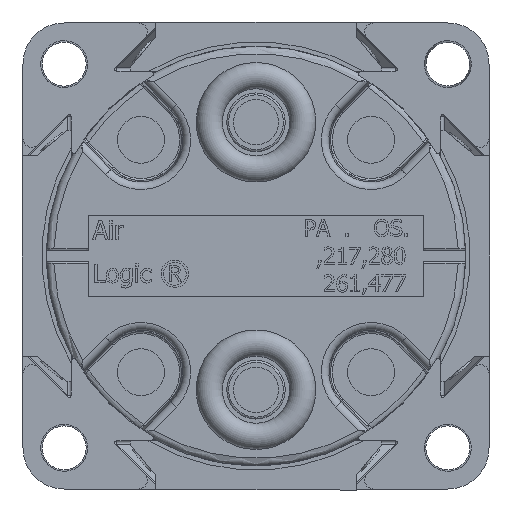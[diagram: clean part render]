
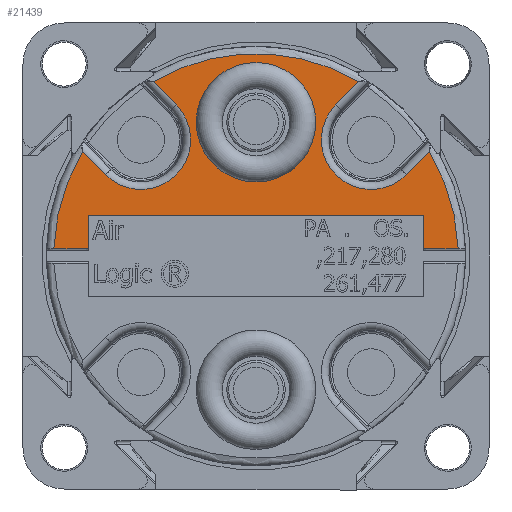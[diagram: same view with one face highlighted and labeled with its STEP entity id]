
A CAD part, front view. The second image highlights one B-rep face of the part: STEP entity #21439.
In plain terms, the highlighted planar face has unit normal (0, -1, 0).
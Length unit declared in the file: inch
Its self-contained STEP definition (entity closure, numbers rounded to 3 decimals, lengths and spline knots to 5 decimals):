
#645=CIRCLE('',#22909,0.54);
#655=CIRCLE('',#22923,0.54);
#722=CIRCLE('',#23051,0.54);
#733=CIRCLE('',#23071,0.1595);
#734=CIRCLE('',#23072,0.1595);
#741=CIRCLE('',#23085,0.13248);
#742=CIRCLE('',#23086,0.13248);
#1340=PLANE('',#23084);
#1730=FACE_BOUND('',#3495,.T.);
#2254=FACE_OUTER_BOUND('',#3494,.T.);
#3494=EDGE_LOOP('',(#16079,#16080,#16081,#16082,#16083,#16084,#16085,#16086,
#16087,#16088,#16089,#16090,#16091,#16092));
#3495=EDGE_LOOP('',(#16093,#16094));
#5160=LINE('',#35406,#6918);
#5162=LINE('',#35448,#6920);
#5163=LINE('',#35450,#6921);
#5164=LINE('',#35452,#6922);
#5165=LINE('',#35453,#6923);
#5166=LINE('',#35455,#6924);
#5167=LINE('',#35458,#6925);
#5168=LINE('',#35460,#6926);
#5169=LINE('',#35463,#6927);
#6918=VECTOR('',#26573,0.3937);
#6920=VECTOR('',#26577,0.3937);
#6921=VECTOR('',#26578,0.3937);
#6922=VECTOR('',#26579,0.3937);
#6923=VECTOR('',#26580,0.3937);
#6924=VECTOR('',#26581,0.3937);
#6925=VECTOR('',#26584,0.3937);
#6926=VECTOR('',#26585,0.3937);
#6927=VECTOR('',#26588,0.3937);
#9018=VERTEX_POINT('',#32566);
#9022=VERTEX_POINT('',#32667);
#9028=VERTEX_POINT('',#32772);
#9046=VERTEX_POINT('',#32885);
#9436=VERTEX_POINT('',#34857);
#9444=VERTEX_POINT('',#35030);
#9460=VERTEX_POINT('',#35383);
#9461=VERTEX_POINT('',#35385);
#9467=VERTEX_POINT('',#35404);
#9469=VERTEX_POINT('',#35447);
#9470=VERTEX_POINT('',#35449);
#9471=VERTEX_POINT('',#35451);
#9472=VERTEX_POINT('',#35454);
#9473=VERTEX_POINT('',#35456);
#9474=VERTEX_POINT('',#35459);
#9475=VERTEX_POINT('',#35461);
#11391=EDGE_CURVE('',#9028,#9018,#645,.T.);
#11412=EDGE_CURVE('',#9046,#9022,#655,.T.);
#11863=EDGE_CURVE('',#9436,#9444,#722,.T.);
#11895=EDGE_CURVE('',#9461,#9460,#733,.T.);
#11896=EDGE_CURVE('',#9460,#9461,#734,.T.);
#11904=EDGE_CURVE('',#9467,#9046,#5160,.T.);
#11908=EDGE_CURVE('',#9467,#9469,#5162,.T.);
#11909=EDGE_CURVE('',#9469,#9470,#5163,.T.);
#11910=EDGE_CURVE('',#9470,#9471,#5164,.T.);
#11911=EDGE_CURVE('',#9444,#9471,#5165,.T.);
#11912=EDGE_CURVE('',#9472,#9436,#5166,.T.);
#11913=EDGE_CURVE('',#9473,#9472,#741,.T.);
#11914=EDGE_CURVE('',#9018,#9473,#5167,.T.);
#11915=EDGE_CURVE('',#9474,#9028,#5168,.T.);
#11916=EDGE_CURVE('',#9475,#9474,#742,.T.);
#11917=EDGE_CURVE('',#9022,#9475,#5169,.T.);
#16079=ORIENTED_EDGE('',*,*,#11904,.F.);
#16080=ORIENTED_EDGE('',*,*,#11908,.T.);
#16081=ORIENTED_EDGE('',*,*,#11909,.T.);
#16082=ORIENTED_EDGE('',*,*,#11910,.T.);
#16083=ORIENTED_EDGE('',*,*,#11911,.F.);
#16084=ORIENTED_EDGE('',*,*,#11863,.F.);
#16085=ORIENTED_EDGE('',*,*,#11912,.F.);
#16086=ORIENTED_EDGE('',*,*,#11913,.F.);
#16087=ORIENTED_EDGE('',*,*,#11914,.F.);
#16088=ORIENTED_EDGE('',*,*,#11391,.F.);
#16089=ORIENTED_EDGE('',*,*,#11915,.F.);
#16090=ORIENTED_EDGE('',*,*,#11916,.F.);
#16091=ORIENTED_EDGE('',*,*,#11917,.F.);
#16092=ORIENTED_EDGE('',*,*,#11412,.F.);
#16093=ORIENTED_EDGE('',*,*,#11896,.T.);
#16094=ORIENTED_EDGE('',*,*,#11895,.T.);
#21439=ADVANCED_FACE('',(#2254,#1730),#1340,.T.);
#22909=AXIS2_PLACEMENT_3D('',#32782,#26015,#26016);
#22923=AXIS2_PLACEMENT_3D('',#32891,#26049,#26050);
#23051=AXIS2_PLACEMENT_3D('',#35031,#26503,#26504);
#23071=AXIS2_PLACEMENT_3D('',#35386,#26546,#26547);
#23072=AXIS2_PLACEMENT_3D('',#35387,#26548,#26549);
#23084=AXIS2_PLACEMENT_3D('',#35446,#26575,#26576);
#23085=AXIS2_PLACEMENT_3D('',#35457,#26582,#26583);
#23086=AXIS2_PLACEMENT_3D('',#35462,#26586,#26587);
#26015=DIRECTION('center_axis',(0.,1.,0.));
#26016=DIRECTION('ref_axis',(0.507,0.,0.862));
#26049=DIRECTION('center_axis',(0.,1.,0.));
#26050=DIRECTION('ref_axis',(-0.856,0.,0.517));
#26503=DIRECTION('center_axis',(0.,1.,0.));
#26504=DIRECTION('ref_axis',(0.999,0.,0.036));
#26546=DIRECTION('center_axis',(0.,1.,0.));
#26547=DIRECTION('ref_axis',(1.,0.,0.));
#26548=DIRECTION('center_axis',(0.,1.,0.));
#26549=DIRECTION('ref_axis',(1.,0.,0.));
#26573=DIRECTION('',(-1.,0.,0.));
#26575=DIRECTION('center_axis',(0.,-1.,0.));
#26576=DIRECTION('ref_axis',(0.,0.,-1.));
#26577=DIRECTION('',(0.,0.,1.));
#26578=DIRECTION('',(1.,0.,0.));
#26579=DIRECTION('',(0.,0.,-1.));
#26580=DIRECTION('',(-1.,0.,0.));
#26581=DIRECTION('',(0.702,0.,0.712));
#26582=DIRECTION('center_axis',(0.,-1.,0.));
#26583=DIRECTION('ref_axis',(0.712,0.,-0.702));
#26584=DIRECTION('',(-0.702,0.,-0.712));
#26585=DIRECTION('',(-0.702,0.,0.712));
#26586=DIRECTION('center_axis',(0.,-1.,0.));
#26587=DIRECTION('ref_axis',(0.712,0.,0.702));
#26588=DIRECTION('',(0.702,0.,-0.712));
#32566=CARTESIAN_POINT('',(0.27405,-0.536,0.46529));
#32667=CARTESIAN_POINT('',(-0.46239,-0.536,0.27892));
#32772=CARTESIAN_POINT('',(-0.27405,-0.536,0.46529));
#32782=CARTESIAN_POINT('Origin',(0.,-0.536,0.));
#32885=CARTESIAN_POINT('',(-0.53965,-0.536,0.01935));
#32891=CARTESIAN_POINT('Origin',(0.,-0.536,
0.));
#34857=CARTESIAN_POINT('',(0.46239,-0.536,0.27892));
#35030=CARTESIAN_POINT('',(0.53965,-0.536,0.01935));
#35031=CARTESIAN_POINT('Origin',(0.,-0.536,
0.));
#35383=CARTESIAN_POINT('',(0.1595,-0.536,0.357));
#35385=CARTESIAN_POINT('',(0.,-0.536,0.1975));
#35386=CARTESIAN_POINT('Origin',(0.,-0.536,0.357));
#35387=CARTESIAN_POINT('Origin',(0.,-0.536,0.357));
#35404=CARTESIAN_POINT('',(-0.44742,-0.536,0.01935));
#35406=CARTESIAN_POINT('',(-0.44742,-0.536,0.01935));
#35446=CARTESIAN_POINT('Origin',(-0.54005,-0.536,0.32303));
#35447=CARTESIAN_POINT('',(-0.44742,-0.536,0.10845));
#35448=CARTESIAN_POINT('',(-0.44742,-0.536,0.01935));
#35449=CARTESIAN_POINT('',(0.44742,-0.536,0.10845));
#35450=CARTESIAN_POINT('',(-0.44742,-0.536,0.10845));
#35451=CARTESIAN_POINT('',(0.44742,-0.536,0.01935));
#35452=CARTESIAN_POINT('',(0.44742,-0.536,0.10845));
#35453=CARTESIAN_POINT('',(0.53965,-0.536,0.01935));
#35454=CARTESIAN_POINT('',(0.40126,-0.536,0.21696));
#35455=CARTESIAN_POINT('',(0.40126,-0.536,0.21696));
#35456=CARTESIAN_POINT('',(0.21264,-0.536,0.40304));
#35457=CARTESIAN_POINT('Origin',(0.30695,-0.536,0.31));
#35458=CARTESIAN_POINT('',(0.27405,-0.536,0.46529));
#35459=CARTESIAN_POINT('',(-0.21264,-0.536,0.40304));
#35460=CARTESIAN_POINT('',(-0.21264,-0.536,0.40304));
#35461=CARTESIAN_POINT('',(-0.40126,-0.536,0.21696));
#35462=CARTESIAN_POINT('Origin',(-0.30695,-0.536,0.31));
#35463=CARTESIAN_POINT('',(-0.46239,-0.536,0.27892));
